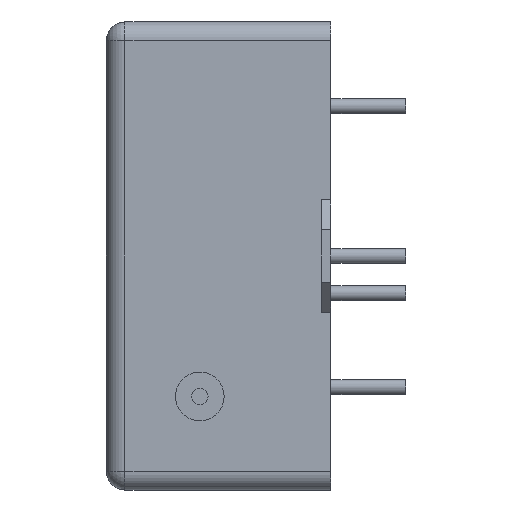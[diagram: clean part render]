
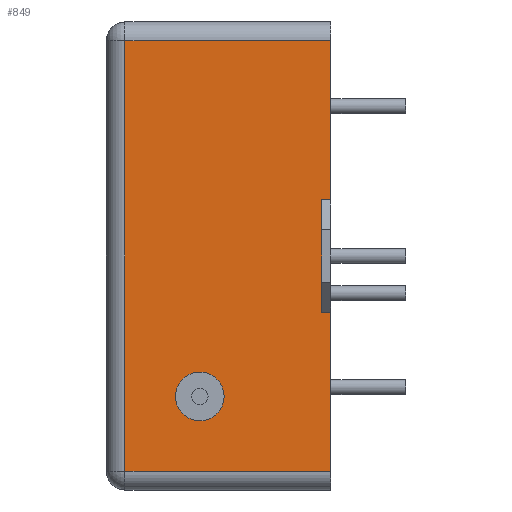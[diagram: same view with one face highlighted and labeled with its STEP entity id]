
A CAD part, left-side view. The second image highlights one B-rep face of the part: STEP entity #849.
In plain terms, the highlighted planar face has unit normal (-1, 0, 0).
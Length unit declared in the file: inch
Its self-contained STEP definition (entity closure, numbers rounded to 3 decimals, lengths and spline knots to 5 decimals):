
#30 = VERTEX_POINT ( 'NONE', #1698 ) ;
#35 = LINE ( 'NONE', #581, #625 ) ;
#46 = AXIS2_PLACEMENT_3D ( 'NONE', #1436, #2009, #1794 ) ;
#66 = DIRECTION ( 'NONE',  ( 0., 0., -1. ) ) ;
#148 = EDGE_CURVE ( 'NONE', #30, #246, #1472, .T. ) ;
#160 = AXIS2_PLACEMENT_3D ( 'NONE', #627, #2039, #283 ) ;
#199 = VECTOR ( 'NONE', #612, 39.37008 ) ;
#217 = VERTEX_POINT ( 'NONE', #1202 ) ;
#235 = VERTEX_POINT ( 'NONE', #2135 ) ;
#246 = VERTEX_POINT ( 'NONE', #1243 ) ;
#249 = VERTEX_POINT ( 'NONE', #1411 ) ;
#263 = ORIENTED_EDGE ( 'NONE', *, *, #1569, .F. ) ;
#264 = ORIENTED_EDGE ( 'NONE', *, *, #1215, .T. ) ;
#269 = ORIENTED_EDGE ( 'NONE', *, *, #1990, .T. ) ;
#283 = DIRECTION ( 'NONE',  ( 0., 0., -1. ) ) ;
#332 = CARTESIAN_POINT ( 'NONE',  ( -1.25, 0.6, 0.575 ) ) ;
#385 = VECTOR ( 'NONE', #2204, 39.37008 ) ;
#409 = CARTESIAN_POINT ( 'NONE',  ( -1.25, 0.025, 0.15 ) ) ;
#417 = LINE ( 'NONE', #409, #624 ) ;
#427 = VERTEX_POINT ( 'NONE', #2224 ) ;
#451 = AXIS2_PLACEMENT_3D ( 'NONE', #1809, #769, #2179 ) ;
#530 = DIRECTION ( 'NONE',  ( 0., 1., 0. ) ) ;
#533 = ORIENTED_EDGE ( 'NONE', *, *, #148, .T. ) ;
#581 = CARTESIAN_POINT ( 'NONE',  ( -1.25, 0.6, -0.575 ) ) ;
#612 = DIRECTION ( 'NONE',  ( 0., 0., -1. ) ) ;
#624 = VECTOR ( 'NONE', #66, 39.37008 ) ;
#625 = VECTOR ( 'NONE', #1114, 39.37008 ) ;
#627 = CARTESIAN_POINT ( 'NONE',  ( -1.25, 0.35, -0.375 ) ) ;
#651 = CIRCLE ( 'NONE', #451, 0.065 ) ;
#686 = FACE_OUTER_BOUND ( 'NONE', #1299, .T. ) ;
#738 = ORIENTED_EDGE ( 'NONE', *, *, #1903, .F. ) ;
#769 = DIRECTION ( 'NONE',  ( -1., 0., 0. ) ) ;
#820 = DIRECTION ( 'NONE',  ( 0., -1., 0. ) ) ;
#849 = ADVANCED_FACE ( 'NONE', ( #686, #2235 ), #1467, .F. ) ;
#947 = LINE ( 'NONE', #2036, #199 ) ;
#978 = CARTESIAN_POINT ( 'NONE',  ( -1.25, 0.025, -0.15 ) ) ;
#1025 = DIRECTION ( 'NONE',  ( 0., -1., 0. ) ) ;
#1103 = ORIENTED_EDGE ( 'NONE', *, *, #2245, .T. ) ;
#1114 = DIRECTION ( 'NONE',  ( 0., -1., 0. ) ) ;
#1140 = CIRCLE ( 'NONE', #160, 0.065 ) ;
#1156 = ORIENTED_EDGE ( 'NONE', *, *, #2008, .T. ) ;
#1192 = LINE ( 'NONE', #332, #1622 ) ;
#1196 = CARTESIAN_POINT ( 'NONE',  ( -1.25, 0., 0.625 ) ) ;
#1202 = CARTESIAN_POINT ( 'NONE',  ( -1.25, 0., -0.15 ) ) ;
#1215 = EDGE_CURVE ( 'NONE', #2052, #235, #35, .T. ) ;
#1217 = EDGE_LOOP ( 'NONE', ( #263, #1871 ) ) ;
#1221 = DIRECTION ( 'NONE',  ( 0., 0., 1. ) ) ;
#1243 = CARTESIAN_POINT ( 'NONE',  ( -1.25, 0., 0.15 ) ) ;
#1290 = EDGE_CURVE ( 'NONE', #1867, #1587, #651, .T. ) ;
#1299 = EDGE_LOOP ( 'NONE', ( #269, #1103, #1156, #264, #1942, #1326, #738, #533 ) ) ;
#1326 = ORIENTED_EDGE ( 'NONE', *, *, #2122, .F. ) ;
#1382 = CARTESIAN_POINT ( 'NONE',  ( -1.25, 0.025, 0.15 ) ) ;
#1411 = CARTESIAN_POINT ( 'NONE',  ( -1.25, 0., 0.575 ) ) ;
#1436 = CARTESIAN_POINT ( 'NONE',  ( -1.25, 0.6, 0.625 ) ) ;
#1438 = VECTOR ( 'NONE', #820, 39.37008 ) ;
#1439 = CARTESIAN_POINT ( 'NONE',  ( -1.25, 0.35, -0.31 ) ) ;
#1467 = PLANE ( 'NONE',  #46 ) ;
#1472 = LINE ( 'NONE', #1382, #2016 ) ;
#1569 = EDGE_CURVE ( 'NONE', #1587, #1867, #1140, .T. ) ;
#1587 = VERTEX_POINT ( 'NONE', #2225 ) ;
#1619 = VERTEX_POINT ( 'NONE', #1728 ) ;
#1622 = VECTOR ( 'NONE', #530, 39.37008 ) ;
#1698 = CARTESIAN_POINT ( 'NONE',  ( -1.25, 0.025, 0.15 ) ) ;
#1710 = LINE ( 'NONE', #1822, #385 ) ;
#1728 = CARTESIAN_POINT ( 'NONE',  ( -1.25, 0.025, -0.15 ) ) ;
#1794 = DIRECTION ( 'NONE',  ( 0., 0., -1. ) ) ;
#1809 = CARTESIAN_POINT ( 'NONE',  ( -1.25, 0.35, -0.375 ) ) ;
#1822 = CARTESIAN_POINT ( 'NONE',  ( -1.25, 0., 0.625 ) ) ;
#1867 = VERTEX_POINT ( 'NONE', #1439 ) ;
#1870 = CARTESIAN_POINT ( 'NONE',  ( -1.25, 0.55, -0.575 ) ) ;
#1871 = ORIENTED_EDGE ( 'NONE', *, *, #1290, .F. ) ;
#1903 = EDGE_CURVE ( 'NONE', #30, #1619, #417, .T. ) ;
#1942 = ORIENTED_EDGE ( 'NONE', *, *, #2196, .T. ) ;
#1949 = LINE ( 'NONE', #1196, #2117 ) ;
#1990 = EDGE_CURVE ( 'NONE', #246, #249, #1710, .T. ) ;
#2008 = EDGE_CURVE ( 'NONE', #427, #2052, #947, .T. ) ;
#2009 = DIRECTION ( 'NONE',  ( 1., 0., 0. ) ) ;
#2016 = VECTOR ( 'NONE', #1025, 39.37008 ) ;
#2036 = CARTESIAN_POINT ( 'NONE',  ( -1.25, 0.55, 0.625 ) ) ;
#2039 = DIRECTION ( 'NONE',  ( -1., 0., 0. ) ) ;
#2052 = VERTEX_POINT ( 'NONE', #1870 ) ;
#2117 = VECTOR ( 'NONE', #1221, 39.37008 ) ;
#2122 = EDGE_CURVE ( 'NONE', #1619, #217, #2145, .T. ) ;
#2135 = CARTESIAN_POINT ( 'NONE',  ( -1.25, 0., -0.575 ) ) ;
#2145 = LINE ( 'NONE', #978, #1438 ) ;
#2179 = DIRECTION ( 'NONE',  ( 0., 0., -1. ) ) ;
#2196 = EDGE_CURVE ( 'NONE', #235, #217, #1949, .T. ) ;
#2204 = DIRECTION ( 'NONE',  ( 0., 0., 1. ) ) ;
#2224 = CARTESIAN_POINT ( 'NONE',  ( -1.25, 0.55, 0.575 ) ) ;
#2225 = CARTESIAN_POINT ( 'NONE',  ( -1.25, 0.35, -0.44 ) ) ;
#2235 = FACE_BOUND ( 'NONE', #1217, .T. ) ;
#2245 = EDGE_CURVE ( 'NONE', #249, #427, #1192, .T. ) ;
